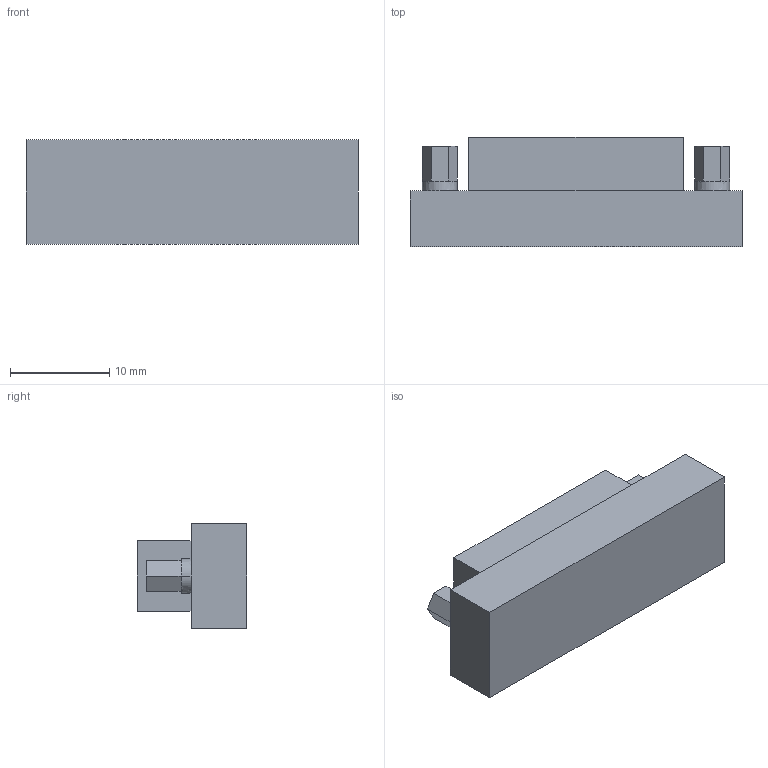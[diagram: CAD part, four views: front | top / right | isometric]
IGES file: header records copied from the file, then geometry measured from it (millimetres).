
Start section:  PTC IGES file: j3du-cn40.igs
Global section: file name: j3du-cn40.igs; native system: Pro/ENGINEER by Parametric Technology Corporation; preprocessor: 2006420; author: JE18792; organization: Unknown; date: 20101129.152803; units: millimetre
Bounding box: 33.4 x 11 x 10.5 mm (x, y, z)
Volume: 2422.3 mm3; surface area: 1808.9 mm2
Topology: 1 solids, 1 shells, 46 faces, 92 edges, 52 vertices
Faces by surface type: bspline 46
